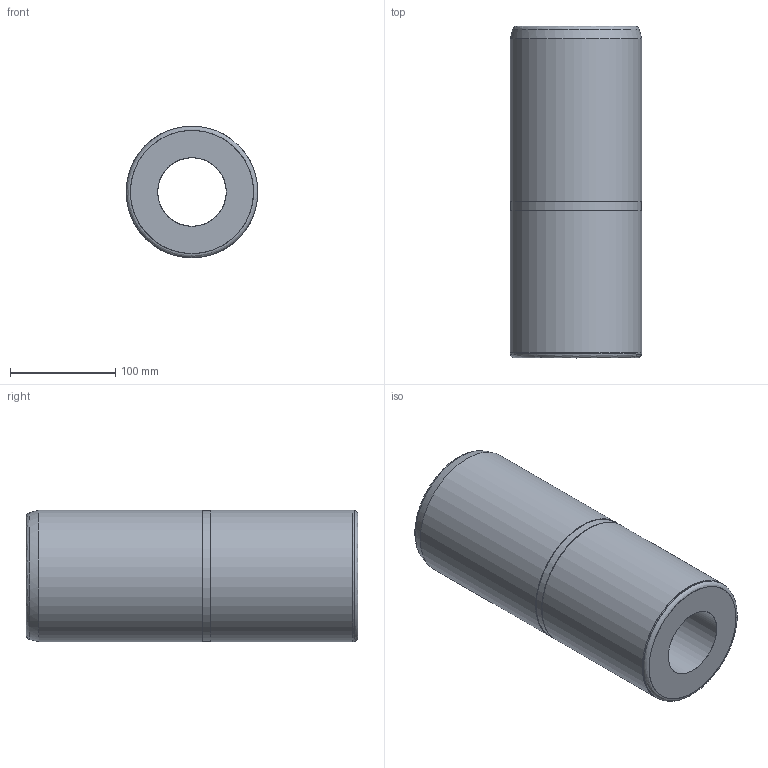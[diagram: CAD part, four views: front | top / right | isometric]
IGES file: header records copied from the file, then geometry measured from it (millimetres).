
Start section: Missler Software BP 521, 31674 Labege Cedex, France Tel   : +33 (0)5 61 00 03 00 Fax   : +33 (0)5 61 00 03 03 Email : sup.topsolid@topsolid.com
Global section: file name: D:\Cuma\26 04 2010\D15g\D15_125315.igs; native system: TopSolid v605250 Missler Software; preprocessor: IGES preprocessor v100000; date: 030225.172745; units: millimetre
Bounding box: 125 x 315 x 125 mm (x, y, z)
Surface area: 206549.7 mm2 (no closed solid volume)
Topology: 0 solids, 0 shells, 18 faces, 346 edges, 336 vertices
Faces by surface type: bspline 18
